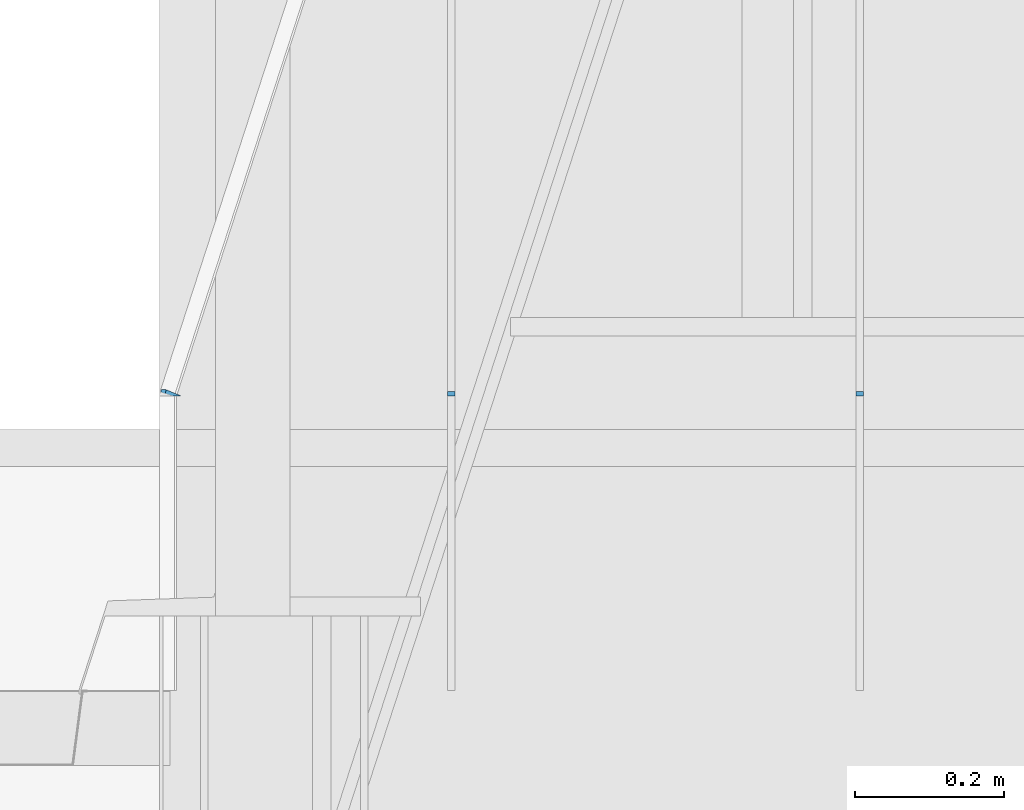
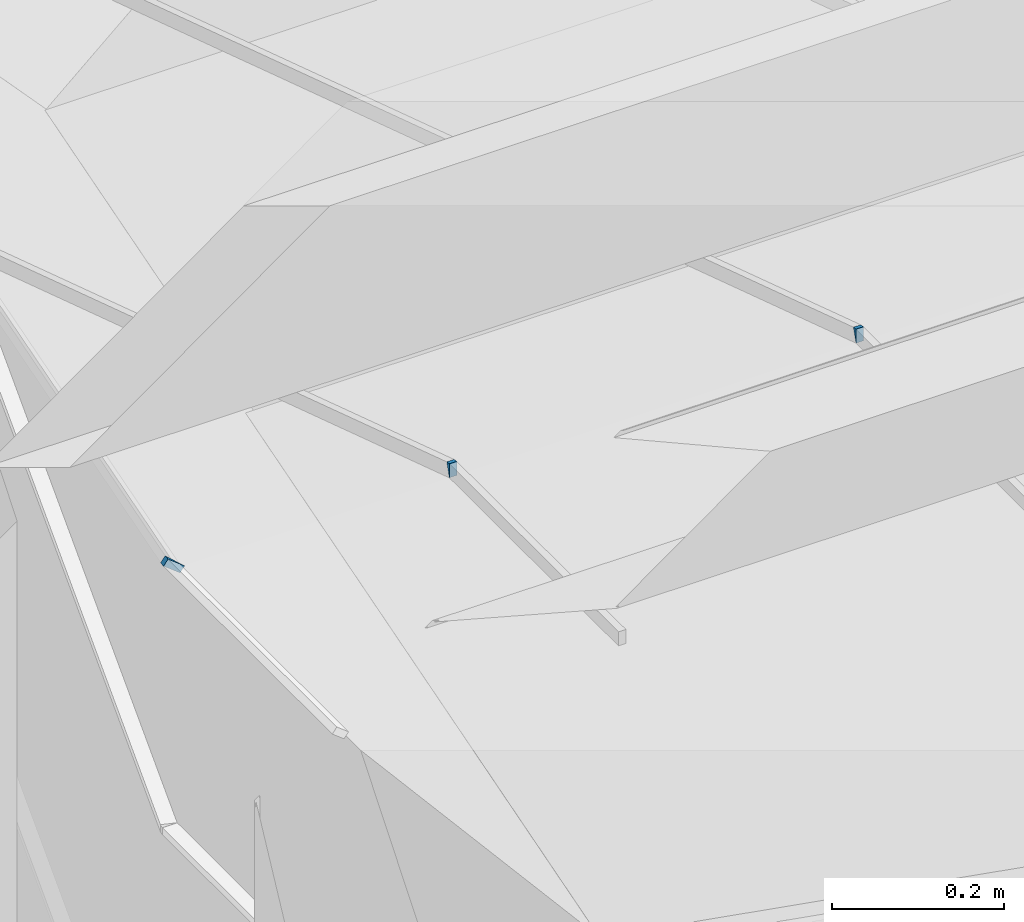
# One storey, part 325 of 583: 3 slabs.
"""IFC2X3 building model written with IfcOpenShell, lengths in metres."""

from ifc_helpers import new_model, entity, si_unit, converted_unit, derived_unit, money_unit, direction, frame, origin_with_axes, place, context, subcontext, project, spatial, faceted_brep, material, type_object, element, save


model = new_model("IFC2X3")

# Units and contexts
model_context = context("Model", 3, precision=1e-05, world=origin_with_axes(), true_north=direction((0.0, 1.0)))
body_context = subcontext(model_context, "Body", "Model", "MODEL_VIEW", scale=1.0)
ifc_project = project(units=[si_unit("LENGTHUNIT", "METRE"), si_unit("AREAUNIT", "SQUARE_METRE"), si_unit("VOLUMEUNIT", "CUBIC_METRE"), si_unit("ABSORBEDDOSEUNIT", "GRAY"), si_unit("AMOUNTOFSUBSTANCEUNIT", "MOLE"), si_unit("DOSEEQUIVALENTUNIT", "SIEVERT"), si_unit("ELECTRICCAPACITANCEUNIT", "FARAD"), si_unit("ELECTRICCHARGEUNIT", "COULOMB"), si_unit("ELECTRICCONDUCTANCEUNIT", "SIEMENS"), si_unit("ELECTRICCURRENTUNIT", "AMPERE"), si_unit("ELECTRICRESISTANCEUNIT", "OHM"), si_unit("ELECTRICVOLTAGEUNIT", "VOLT"), si_unit("ENERGYUNIT", "JOULE"), si_unit("FORCEUNIT", "NEWTON"), si_unit("FREQUENCYUNIT", "HERTZ"), si_unit("ILLUMINANCEUNIT", "LUX"), si_unit("INDUCTANCEUNIT", "HENRY"), si_unit("LUMINOUSFLUXUNIT", "LUMEN"), si_unit("LUMINOUSINTENSITYUNIT", "CANDELA"), si_unit("MAGNETICFLUXDENSITYUNIT", "TESLA"), si_unit("MAGNETICFLUXUNIT", "WEBER"), si_unit("MASSUNIT", "GRAM"), converted_unit("PLANEANGLEUNIT", "degree", entity("IfcReal", 0.0174532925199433), si_unit("PLANEANGLEUNIT", "RADIAN"), dimensions=[0, 0, 0, 0, 0, 0, 0]), si_unit("POWERUNIT", "WATT"), si_unit("PRESSUREUNIT", "PASCAL"), si_unit("RADIOACTIVITYUNIT", "BECQUEREL"), si_unit("SOLIDANGLEUNIT", "STERADIAN"), si_unit("THERMODYNAMICTEMPERATUREUNIT", "KELVIN"), si_unit("TIMEUNIT", "SECOND"), derived_unit("ACCELERATIONUNIT", [(si_unit("LENGTHUNIT", "METRE"), 1), (si_unit("TIMEUNIT", "SECOND"), -2)]), derived_unit("ANGULARVELOCITYUNIT", [(converted_unit("PLANEANGLEUNIT", "degree", entity("IfcReal", 0.0174532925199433), si_unit("PLANEANGLEUNIT", "RADIAN"), dimensions=[0, 0, 0, 0, 0, 0, 0]), 1), (si_unit("TIMEUNIT", "SECOND"), -1)]), derived_unit("CURVATUREUNIT", [(converted_unit("PLANEANGLEUNIT", "degree", entity("IfcReal", 0.0174532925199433), si_unit("PLANEANGLEUNIT", "RADIAN"), dimensions=[0, 0, 0, 0, 0, 0, 0]), 1), (si_unit("LENGTHUNIT", "METRE"), -1)]), derived_unit("DYNAMICVISCOSITYUNIT", [(si_unit("PRESSUREUNIT", "PASCAL"), 1), (si_unit("TIMEUNIT", "SECOND"), 1)]), derived_unit("HEATFLUXDENSITYUNIT", [(si_unit("POWERUNIT", "WATT"), 1), (si_unit("LENGTHUNIT", "METRE"), -2)]), derived_unit("HEATINGVALUEUNIT", [(si_unit("ENERGYUNIT", "JOULE"), 1), (si_unit("MASSUNIT", "GRAM"), -1)]), derived_unit("INTEGERCOUNTRATEUNIT", [(si_unit("TIMEUNIT", "SECOND"), -1)]), derived_unit("IONCONCENTRATIONUNIT", [(si_unit("MASSUNIT", "GRAM"), 1), (si_unit("VOLUMEUNIT", "CUBIC_METRE"), -1)]), derived_unit("ISOTHERMALMOISTURECAPACITYUNIT", [(si_unit("VOLUMEUNIT", "CUBIC_METRE"), 1), (si_unit("MASSUNIT", "GRAM"), -1)]), derived_unit("KINEMATICVISCOSITYUNIT", [(si_unit("AREAUNIT", "SQUARE_METRE"), 1), (si_unit("TIMEUNIT", "SECOND"), -1)]), derived_unit("LINEARFORCEUNIT", [(si_unit("FORCEUNIT", "NEWTON"), 1), (si_unit("LENGTHUNIT", "METRE"), -1)]), derived_unit("LINEARMOMENTUNIT", [(si_unit("FORCEUNIT", "NEWTON"), 1), (si_unit("LENGTHUNIT", "METRE"), -1)]), derived_unit("LINEARSTIFFNESSUNIT", [(si_unit("FORCEUNIT", "NEWTON"), 1), (si_unit("LENGTHUNIT", "METRE"), -1)]), derived_unit("LINEARVELOCITYUNIT", [(si_unit("LENGTHUNIT", "METRE"), 1), (si_unit("TIMEUNIT", "SECOND"), -1)]), derived_unit("LUMINOUSINTENSITYDISTRIBUTIONUNIT", [(si_unit("LUMINOUSINTENSITYUNIT", "CANDELA"), 1), (si_unit("LUMINOUSFLUXUNIT", "LUMEN"), -1)]), derived_unit("MASSDENSITYUNIT", [(si_unit("MASSUNIT", "GRAM"), 1), (si_unit("VOLUMEUNIT", "CUBIC_METRE"), -1)]), derived_unit("MASSFLOWRATEUNIT", [(si_unit("MASSUNIT", "GRAM"), 1), (si_unit("TIMEUNIT", "SECOND"), -1)]), derived_unit("MASSPERLENGTHUNIT", [(si_unit("MASSUNIT", "GRAM"), 1), (si_unit("LENGTHUNIT", "METRE"), -1)]), derived_unit("MODULUSOFELASTICITYUNIT", [(si_unit("FORCEUNIT", "NEWTON"), 1), (si_unit("AREAUNIT", "SQUARE_METRE"), -1)]), derived_unit("MODULUSOFLINEARSUBGRADEREACTIONUNIT", [(si_unit("FORCEUNIT", "NEWTON"), 1), (si_unit("LENGTHUNIT", "METRE"), -2)]), derived_unit("MODULUSOFROTATIONALSUBGRADEREACTIONUNIT", [(si_unit("FORCEUNIT", "NEWTON"), 1), (si_unit("LENGTHUNIT", "METRE"), 1)]), derived_unit("MODULUSOFSUBGRADEREACTIONUNIT", [(si_unit("FORCEUNIT", "NEWTON"), 1), (si_unit("VOLUMEUNIT", "CUBIC_METRE"), -1)]), derived_unit("MOISTUREDIFFUSIVITYUNIT", [(si_unit("VOLUMEUNIT", "CUBIC_METRE"), 1), (si_unit("TIMEUNIT", "SECOND"), -1)]), derived_unit("MOLECULARWEIGHTUNIT", [(si_unit("MASSUNIT", "GRAM"), 1), (si_unit("AMOUNTOFSUBSTANCEUNIT", "MOLE"), -1)]), derived_unit("PLANARFORCEUNIT", [(si_unit("FORCEUNIT", "NEWTON"), 1), (si_unit("LENGTHUNIT", "METRE"), -2)]), derived_unit("ROTATIONALFREQUENCYUNIT", [(si_unit("TIMEUNIT", "SECOND"), -1)]), derived_unit("ROTATIONALMASSUNIT", [(si_unit("MASSUNIT", "GRAM"), 1), (si_unit("LENGTHUNIT", "METRE"), 2)]), derived_unit("ROTATIONALSTIFFNESSUNIT", [(si_unit("FORCEUNIT", "NEWTON"), 1), (si_unit("LENGTHUNIT", "METRE"), 1), (converted_unit("PLANEANGLEUNIT", "degree", entity("IfcReal", 0.0174532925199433), si_unit("PLANEANGLEUNIT", "RADIAN"), dimensions=[0, 0, 0, 0, 0, 0, 0]), -1)]), derived_unit("SECTIONAREAINTEGRALUNIT", [(si_unit("LENGTHUNIT", "METRE"), 5)]), derived_unit("SECTIONMODULUSUNIT", [(si_unit("LENGTHUNIT", "METRE"), 3)]), derived_unit("SHEARMODULUSUNIT", [(si_unit("FORCEUNIT", "NEWTON"), 1), (si_unit("AREAUNIT", "SQUARE_METRE"), -1)]), derived_unit("SOUNDPOWERUNIT", [(si_unit("ENERGYUNIT", "JOULE"), 1), (si_unit("TIMEUNIT", "SECOND"), -1)]), derived_unit("SPECIFICHEATCAPACITYUNIT", [(si_unit("FORCEUNIT", "NEWTON"), 1), (si_unit("MASSUNIT", "GRAM"), -1), (si_unit("THERMODYNAMICTEMPERATUREUNIT", "KELVIN"), -1)]), derived_unit("TEMPERATUREGRADIENTUNIT", [(si_unit("THERMODYNAMICTEMPERATUREUNIT", "KELVIN"), 1), (si_unit("LENGTHUNIT", "METRE"), -1)]), derived_unit("THERMALADMITTANCEUNIT", [(si_unit("POWERUNIT", "WATT"), 1), (si_unit("AREAUNIT", "SQUARE_METRE"), -1), (si_unit("THERMODYNAMICTEMPERATUREUNIT", "KELVIN"), -1)]), derived_unit("THERMALCONDUCTANCEUNIT", [(si_unit("POWERUNIT", "WATT"), 1), (si_unit("LENGTHUNIT", "METRE"), -1), (si_unit("THERMODYNAMICTEMPERATUREUNIT", "KELVIN"), -1)]), derived_unit("THERMALEXPANSIONCOEFFICIENTUNIT", [(si_unit("THERMODYNAMICTEMPERATUREUNIT", "KELVIN"), -1)]), derived_unit("THERMALRESISTANCEUNIT", [(si_unit("AREAUNIT", "SQUARE_METRE"), 1), (si_unit("POWERUNIT", "WATT"), -1)]), derived_unit("THERMALTRANSMITTANCEUNIT", [(si_unit("POWERUNIT", "WATT"), 1), (si_unit("AREAUNIT", "SQUARE_METRE"), -1), (si_unit("THERMODYNAMICTEMPERATUREUNIT", "KELVIN"), -1)]), derived_unit("TORQUEUNIT", [(si_unit("FORCEUNIT", "NEWTON"), 1), (si_unit("LENGTHUNIT", "METRE"), 1)]), derived_unit("VAPORPERMEABILITYUNIT", [(si_unit("MASSUNIT", "GRAM"), 1), (si_unit("TIMEUNIT", "SECOND"), -1)]), derived_unit("VOLUMETRICFLOWRATEUNIT", [(si_unit("VOLUMEUNIT", "CUBIC_METRE"), 1), (si_unit("TIMEUNIT", "SECOND"), -1)]), derived_unit("WARPINGCONSTANTUNIT", [(si_unit("LENGTHUNIT", "METRE"), 6)]), derived_unit("WARPINGMOMENTUNIT", [(si_unit("FORCEUNIT", "NEWTON"), 1), (si_unit("LENGTHUNIT", "METRE"), 2)]), money_unit("GBP")], contexts=[model_context])

# Site, building, storey
site_placement = place(None, origin_with_axes())
site = spatial("IfcSite", under=ifc_project, at=site_placement, Name="Site", CompositionType="ELEMENT")
building_placement = place(site_placement, origin_with_axes())
building = spatial("IfcBuilding", under=site, at=building_placement, Name="Building01", CompositionType="ELEMENT")
storey_placement = place(building_placement, frame((0.0, 0.0, 20.78), z_axis=(0.0, 0.0, 1.0), x_axis=(1.0, 0.0, 0.0)))
storey = spatial("IfcBuildingStorey", under=building, at=storey_placement, Name="RL", CompositionType="ELEMENT", Elevation=20.78)

# Slabs
ifc_material = material(Name="A_BSUK_Roofs")
slab_type = type_object("IfcSlabType", Name="A-FloorsSlabs A_BSUK_Slabs", PredefinedType="FLOOR")
for number, where, z_axis, x_axis, name in (
    (1, (1.443975, 16.280608, 5.699021), (0.0, 1.0, 0.0), (1.0, 0.0, 0.0), "A-FloorsSlabs A_BSUK_Slabs"),
    (2, (0.896475, 16.280608, 5.699021), (0.0, 1.0, 0.0), (1.0, 0.0, 0.0), "A-FloorsSlabs A_BSUK_Slabs"),
):
    element("IfcSlab", number, at=place(storey_placement, frame(where, z_axis=z_axis, x_axis=x_axis)), inside=storey, type_object=slab_type, material=ifc_material, Name=name, ObjectType="A-FloorsSlabs A_BSUK_Slabs", context=body_context, shape_type="Brep", body=[
        faceted_brep([(0.0, 0.0, 0.0), (-0.01, 0.0, 0.0), (-0.01, -0.000979, -0.00618), (0.0, -0.000979, -0.00618), (-0.01, 0.019021, -0.00618), (0.0, 0.019021, -0.00618)], [[[0, 1, 2, 3]], [[3, 2, 4, 5]], [[5, 4, 1, 0]], [[1, 4, 2]], [[3, 5, 0]]]),
    ])
slab_placement = place(storey_placement, frame((0.501481, 16.280618, 5.689164), z_axis=(0.0, 1.0, 0.0), x_axis=(0.61416219, 0.0, 0.78917983)))
element("IfcSlab", 3, at=slab_placement, inside=storey, type_object=slab_type, material=ifc_material, Name="A-FloorsSlabs A_BSUK_Slabs", ObjectType="A-FloorsSlabs A_BSUK_Slabs", context=body_context, shape_type="Brep", body=[
    faceted_brep([(-4.1e-05, 0.000213, -0.00619), (0.009969, 0.000213, -0.00619), (0.009969, 0.001593, 0.002526), (-4.1e-05, 0.001593, 0.002526), (-4.1e-05, 0.028418, -0.00619), (0.009969, 0.028418, -0.00619)], [[[0, 1, 2, 3]], [[4, 5, 1, 0]], [[3, 2, 5, 4]], [[1, 5, 2]], [[3, 4, 0]]]),
])

save(model, "model.ifc")
